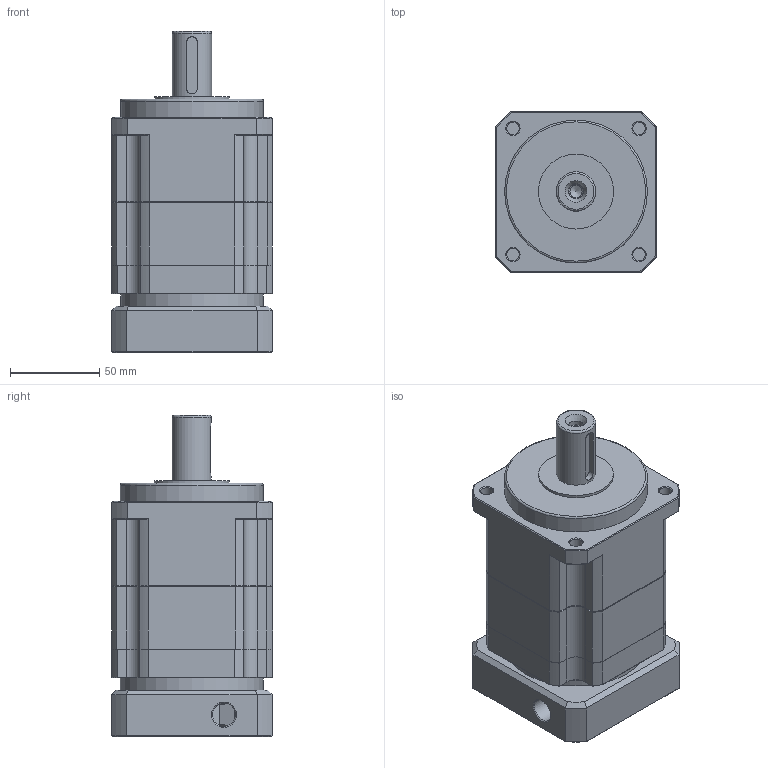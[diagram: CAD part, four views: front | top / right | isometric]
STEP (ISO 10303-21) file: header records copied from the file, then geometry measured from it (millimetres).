
FILE_DESCRIPTION(/* description */ (''),/* implementation_level */ '2;1');
FILE_NAME(/* name */ 'TB090-L2-14-50-95-M6-42.5-4.stp',/* time_stamp */ '2024-06-25T16:35:30+08:00',/* author */ (''),/* organization */ (''),/* preprocessor_version */ 'ST-DEVELOPER v16',/* originating_system */ 'SIEMENS PLM Software NX 10.0',/* authorisation */ '');
FILE_SCHEMA (('CONFIG_CONTROL_DESIGN'));
Length unit declared in the file: millimetre
Products named in the file (1): TB090-L2-14-50-95-M6-42.5-4
Bounding box: 90 x 90.21 x 179.85 mm (x, y, z)
Volume: 791895.2 mm3; surface area: 150072.7 mm2
Topology: 7 solids, 8 shells, 392 faces, 951 edges, 605 vertices
Faces by surface type: plane 164, cylinder 119, cone 101, torus 8
Full cylindrical faces by diameter (mm): 4 x4, 4.2 x10, 5.1 x4, 5.2 x1, 5.5 x10, 6.5 x1, 6.8 x1, 7 x4, 8.45 x1, 9 x6, 13 x1, 19 x1, 22 x1, 23 x1, 26.6 x1, 27.5 x1, 28 x2, 30 x1, 31 x1, 38 x1, 40 x1, 42 x1, 50 x1, 60 x1, 66 x1, 76 x1, 80 x3, 85 x1
Entity records: 10763 total; most frequent: CARTESIAN_POINT 2169, DIRECTION 1815, ORIENTED_EDGE 1542, EDGE_CURVE 771, AXIS2_PLACEMENT_3D 744, EDGE_LOOP 575, VERTEX_POINT 556, ADVANCED_FACE 392
